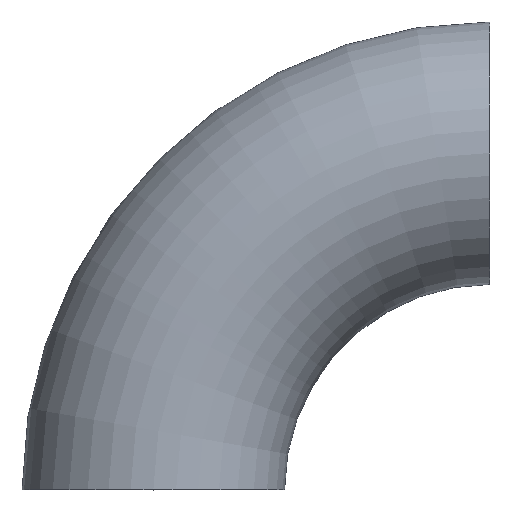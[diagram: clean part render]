
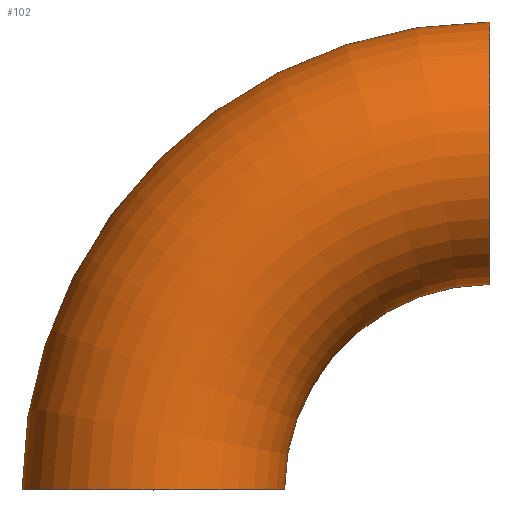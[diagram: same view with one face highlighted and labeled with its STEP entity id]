
A CAD part, top view. The second image highlights one B-rep face of the part: STEP entity #102.
In plain terms, the highlighted toroidal (fillet/blend) face has major radius 114 mm and minor radius 44.45 mm.
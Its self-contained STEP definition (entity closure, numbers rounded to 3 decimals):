
#1 = DIRECTION ( 'NONE',  ( 1., 0., 0. ) ) ;
#2 = DIRECTION ( 'NONE',  ( 1., 0., 0. ) ) ;
#9 = VERTEX_POINT ( 'NONE', #55 ) ;
#17 = CARTESIAN_POINT ( 'NONE',  ( 114., 69.55, 0. ) ) ;
#19 = ORIENTED_EDGE ( 'NONE', *, *, #70, .T. ) ;
#26 = CIRCLE ( 'NONE', #101, 69.55 ) ;
#33 = CARTESIAN_POINT ( 'NONE',  ( 44.45, 0., 0. ) ) ;
#35 = CIRCLE ( 'NONE', #134, 44.45 ) ;
#42 = CARTESIAN_POINT ( 'NONE',  ( 114., 0., 0. ) ) ;
#49 = AXIS2_PLACEMENT_3D ( 'NONE', #180, #2, #238 ) ;
#52 = EDGE_CURVE ( 'NONE', #74, #58, #26, .T. ) ;
#55 = CARTESIAN_POINT ( 'NONE',  ( -44.45, 0., 0. ) ) ;
#58 = VERTEX_POINT ( 'NONE', #33 ) ;
#69 = CIRCLE ( 'NONE', #49, 44.45 ) ;
#70 = EDGE_CURVE ( 'NONE', #9, #58, #35, .T. ) ;
#71 = ORIENTED_EDGE ( 'NONE', *, *, #127, .T. ) ;
#74 = VERTEX_POINT ( 'NONE', #17 ) ;
#86 = AXIS2_PLACEMENT_3D ( 'NONE', #42, #91, #1 ) ;
#91 = DIRECTION ( 'NONE',  ( 0., 0., 1. ) ) ;
#101 = AXIS2_PLACEMENT_3D ( 'NONE', #111, #250, #213 ) ;
#102 = ADVANCED_FACE ( 'NONE', ( #252 ), #246, .T. ) ;
#109 = CARTESIAN_POINT ( 'NONE',  ( 0., 0., 0. ) ) ;
#111 = CARTESIAN_POINT ( 'NONE',  ( 114., 0., 0. ) ) ;
#127 = EDGE_CURVE ( 'NONE', #196, #9, #211, .T. ) ;
#128 = EDGE_LOOP ( 'NONE', ( #133, #71, #19, #190 ) ) ;
#133 = ORIENTED_EDGE ( 'NONE', *, *, #172, .F. ) ;
#134 = AXIS2_PLACEMENT_3D ( 'NONE', #109, #158, #234 ) ;
#155 = DIRECTION ( 'NONE',  ( 0., 0., 1. ) ) ;
#158 = DIRECTION ( 'NONE',  ( 0., 1., 0. ) ) ;
#160 = CARTESIAN_POINT ( 'NONE',  ( 114., 158.45, 0. ) ) ;
#172 = EDGE_CURVE ( 'NONE', #196, #74, #69, .T. ) ;
#180 = CARTESIAN_POINT ( 'NONE',  ( 114., 114., 0. ) ) ;
#190 = ORIENTED_EDGE ( 'NONE', *, *, #52, .F. ) ;
#196 = VERTEX_POINT ( 'NONE', #160 ) ;
#211 = CIRCLE ( 'NONE', #86, 158.45 ) ;
#213 = DIRECTION ( 'NONE',  ( 1., 0., 0. ) ) ;
#218 = CARTESIAN_POINT ( 'NONE',  ( 114., 0., 0. ) ) ;
#234 = DIRECTION ( 'NONE',  ( 0., 0., 1. ) ) ;
#235 = DIRECTION ( 'NONE',  ( 1., 0., 0. ) ) ;
#238 = DIRECTION ( 'NONE',  ( 0., 0., 1. ) ) ;
#242 = AXIS2_PLACEMENT_3D ( 'NONE', #218, #155, #235 ) ;
#246 = TOROIDAL_SURFACE ( 'NONE', #242, 114., 44.45 ) ;
#250 = DIRECTION ( 'NONE',  ( 0., 0., 1. ) ) ;
#252 = FACE_OUTER_BOUND ( 'NONE', #128, .T. ) ;
